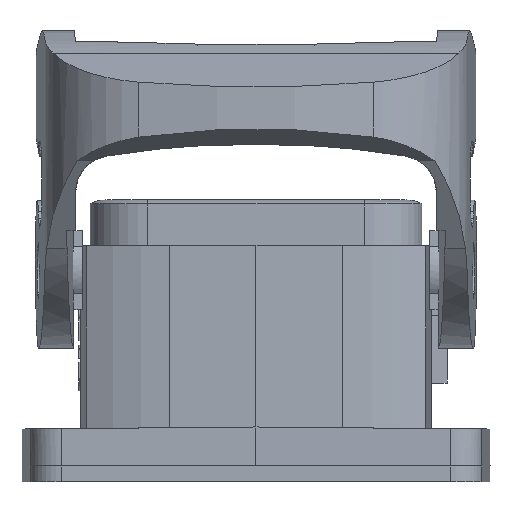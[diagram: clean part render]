
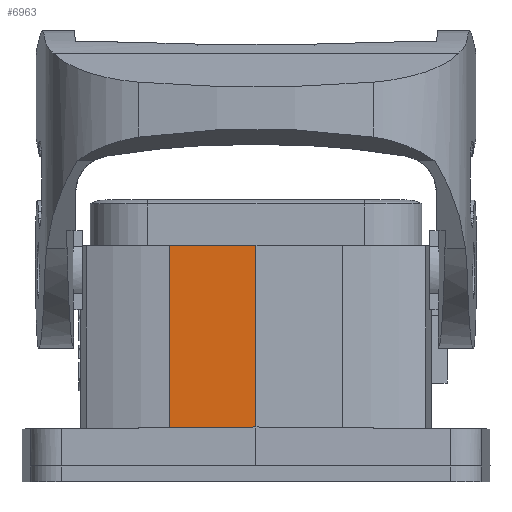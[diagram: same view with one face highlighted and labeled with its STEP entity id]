
A CAD part, left-side view. The second image highlights one B-rep face of the part: STEP entity #6963.
In plain terms, the highlighted planar face has unit normal (-1, 0.018, 0).
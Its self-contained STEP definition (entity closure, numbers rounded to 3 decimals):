
#4291=LINE('',#21902,#5594);
#4492=LINE('',#22944,#5795);
#4528=LINE('',#23114,#5831);
#4529=LINE('',#23115,#5832);
#5594=VECTOR('',#18283,1.);
#5795=VECTOR('',#18722,1.);
#5831=VECTOR('',#18836,1.);
#5832=VECTOR('',#18837,1.);
#6963=ADVANCED_FACE('',(#8125),#7632,.T.);
#7632=PLANE('',#17286);
#8125=FACE_OUTER_BOUND('',#8793,.T.);
#8793=EDGE_LOOP('',(#9969,#9970,#9971,#9972));
#9969=ORIENTED_EDGE('',*,*,#14817,.T.);
#9970=ORIENTED_EDGE('',*,*,#14749,.T.);
#9971=ORIENTED_EDGE('',*,*,#14818,.F.);
#9972=ORIENTED_EDGE('',*,*,#14437,.F.);
#13204=VERTEX_POINT('',#21901);
#13205=VERTEX_POINT('',#21903);
#13430=VERTEX_POINT('',#22826);
#13478=VERTEX_POINT('',#22945);
#14437=EDGE_CURVE('',#13204,#13205,#4291,.T.);
#14749=EDGE_CURVE('',#13478,#13430,#4492,.T.);
#14817=EDGE_CURVE('',#13204,#13478,#4528,.T.);
#14818=EDGE_CURVE('',#13205,#13430,#4529,.T.);
#17286=AXIS2_PLACEMENT_3D('',#23116,#18838,#18839);
#18283=DIRECTION('',(-0.017,-1.,0.));
#18722=DIRECTION('',(-0.017,-1.,0.009));
#18836=DIRECTION('',(0.,0.,-1.));
#18837=DIRECTION('',(0.,0.,-1.));
#18838=DIRECTION('',(-1.,0.017,0.));
#18839=DIRECTION('',(0.017,1.,0.));
#21901=CARTESIAN_POINT('',(-60.807,11.05,5.7));
#21902=CARTESIAN_POINT('',(-61.,0.,5.7));
#21903=CARTESIAN_POINT('',(-61.,0.,5.7));
#22826=CARTESIAN_POINT('',(-61.,0.,-17.55));
#22944=CARTESIAN_POINT('',(-60.981,1.064,-17.559));
#22945=CARTESIAN_POINT('',(-60.807,11.05,-17.646));
#23114=CARTESIAN_POINT('',(-60.807,11.05,-17.55));
#23115=CARTESIAN_POINT('',(-61.,0.,-17.55));
#23116=CARTESIAN_POINT('',(-61.,0.,-17.55));
